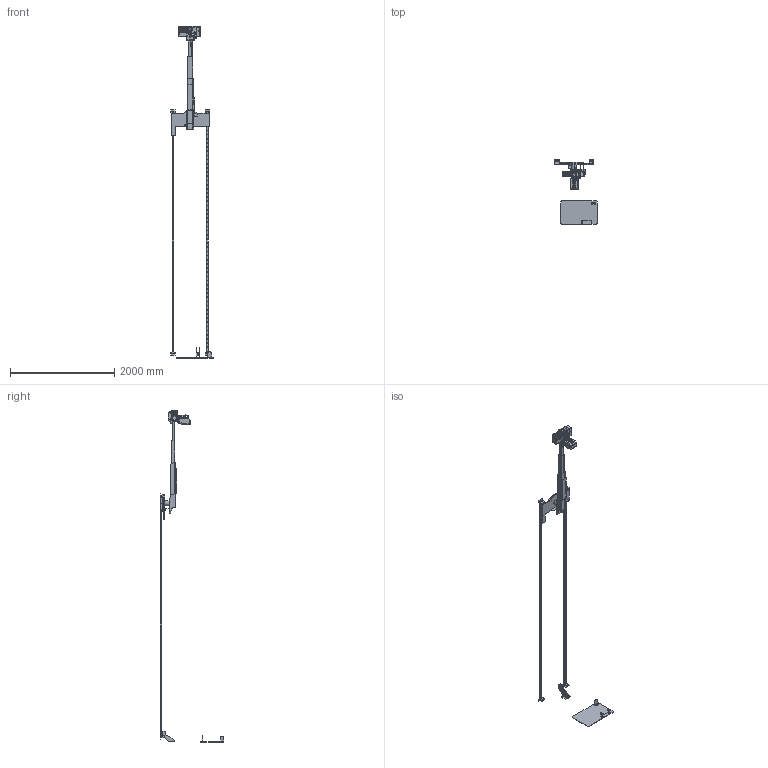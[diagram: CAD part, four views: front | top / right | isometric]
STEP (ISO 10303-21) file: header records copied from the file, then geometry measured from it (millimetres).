
FILE_DESCRIPTION (( 'STEP AP203' ), '1' );
FILE_NAME ('KSV_00_000_000_3_P-.STEP', '2026-02-12T11:06:24', ( '' ), ( '' ), 'SwSTEP 2.0', 'SolidWorks 2023', '' );
FILE_SCHEMA (( 'CONFIG_CONTROL_DESIGN' ));
Products named in the file (4): KSV_05_000_100_3_P; KSV_15_000_000_2_P_; KSV_10_000_000_4_P; KSV_00_000_000_3_P-
Assembly tree (3 placements, depth 2):
  KSV_00_000_000_3_P-
    KSV_05_000_100_3_P
    KSV_10_000_000_4_P
    KSV_15_000_000_2_P_
Bounding box: 820.68 x 1225 x 6368.28 mm (x, y, z)
Volume: 20330003.3 mm3; surface area: 6939369.8 mm2
Topology: 31 solids, 85 shells, 6954 faces, 18176 edges, 11358 vertices
Faces by surface type: cylinder 2942, plane 2587, bspline 1084, cone 299, torus 42
Entity records: 294009 total; most frequent: CARTESIAN_POINT 135430, ORIENTED_EDGE 35623, DIRECTION 28750, EDGE_CURVE 17909, VERTEX_POINT 11360, AXIS2_PLACEMENT_3D 10218, VECTOR 8314, LINE 8314
